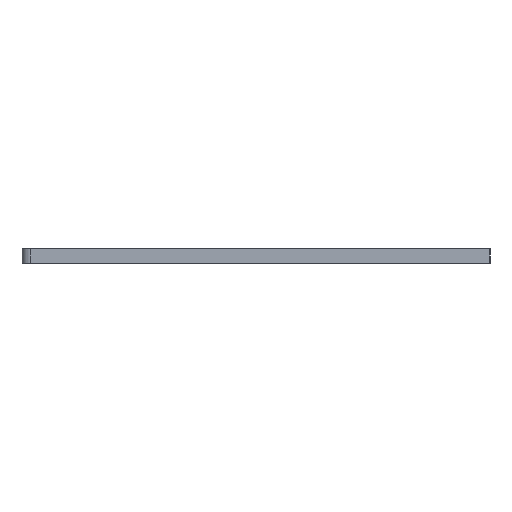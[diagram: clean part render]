
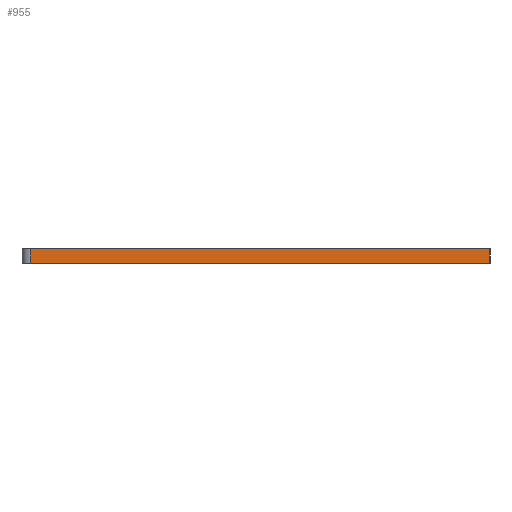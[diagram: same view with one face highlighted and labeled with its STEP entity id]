
A CAD part, left-side view. The second image highlights one B-rep face of the part: STEP entity #955.
In plain terms, the highlighted planar face has unit normal (-1, 0, 0).
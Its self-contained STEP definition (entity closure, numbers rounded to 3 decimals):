
#53 = CARTESIAN_POINT ( 'NONE',  ( -66.9, -0.8, 1.5 ) ) ;
#121 = ORIENTED_EDGE ( 'NONE', *, *, #640, .F. ) ;
#161 = LINE ( 'NONE', #1305, #801 ) ;
#213 = PLANE ( 'NONE',  #1451 ) ;
#295 = ORIENTED_EDGE ( 'NONE', *, *, #969, .F. ) ;
#321 = DIRECTION ( 'NONE',  ( 0., 0., -1. ) ) ;
#324 = VERTEX_POINT ( 'NONE', #1086 ) ;
#362 = CARTESIAN_POINT ( 'NONE',  ( -66.9, -49.8, 1.5 ) ) ;
#372 = DIRECTION ( 'NONE',  ( 0., -1., 0. ) ) ;
#455 = LINE ( 'NONE', #53, #1131 ) ;
#460 = CARTESIAN_POINT ( 'NONE',  ( -66.9, -49.8, 0. ) ) ;
#469 = VERTEX_POINT ( 'NONE', #460 ) ;
#502 = CARTESIAN_POINT ( 'NONE',  ( -66.9, -0.8, 1.5 ) ) ;
#640 = EDGE_CURVE ( 'NONE', #324, #469, #1344, .T. ) ;
#692 = DIRECTION ( 'NONE',  ( 0., -1., 0. ) ) ;
#761 = EDGE_CURVE ( 'NONE', #1170, #469, #1600, .T. ) ;
#788 = EDGE_LOOP ( 'NONE', ( #992, #121, #295, #916 ) ) ;
#801 = VECTOR ( 'NONE', #372, 1000. ) ;
#916 = ORIENTED_EDGE ( 'NONE', *, *, #1644, .T. ) ;
#955 = ADVANCED_FACE ( 'NONE', ( #1195 ), #213, .F. ) ;
#962 = CARTESIAN_POINT ( 'NONE',  ( -66.9, -49.8, 0. ) ) ;
#969 = EDGE_CURVE ( 'NONE', #1585, #324, #161, .T. ) ;
#992 = ORIENTED_EDGE ( 'NONE', *, *, #761, .T. ) ;
#1030 = VECTOR ( 'NONE', #1306, 1000. ) ;
#1051 = CARTESIAN_POINT ( 'NONE',  ( -66.9, -49.8, 1.5 ) ) ;
#1070 = VECTOR ( 'NONE', #692, 1000. ) ;
#1086 = CARTESIAN_POINT ( 'NONE',  ( -66.9, -49.8, 1.5 ) ) ;
#1131 = VECTOR ( 'NONE', #321, 1000. ) ;
#1133 = CARTESIAN_POINT ( 'NONE',  ( -66.9, -0.8, 0. ) ) ;
#1170 = VERTEX_POINT ( 'NONE', #1133 ) ;
#1178 = DIRECTION ( 'NONE',  ( 1., 0., 0. ) ) ;
#1195 = FACE_OUTER_BOUND ( 'NONE', #788, .T. ) ;
#1305 = CARTESIAN_POINT ( 'NONE',  ( -66.9, -49.8, 1.5 ) ) ;
#1306 = DIRECTION ( 'NONE',  ( 0., 0., -1. ) ) ;
#1344 = LINE ( 'NONE', #1051, #1030 ) ;
#1436 = DIRECTION ( 'NONE',  ( 0., 1., 0. ) ) ;
#1451 = AXIS2_PLACEMENT_3D ( 'NONE', #362, #1178, #1436 ) ;
#1585 = VERTEX_POINT ( 'NONE', #502 ) ;
#1600 = LINE ( 'NONE', #962, #1070 ) ;
#1644 = EDGE_CURVE ( 'NONE', #1585, #1170, #455, .T. ) ;
